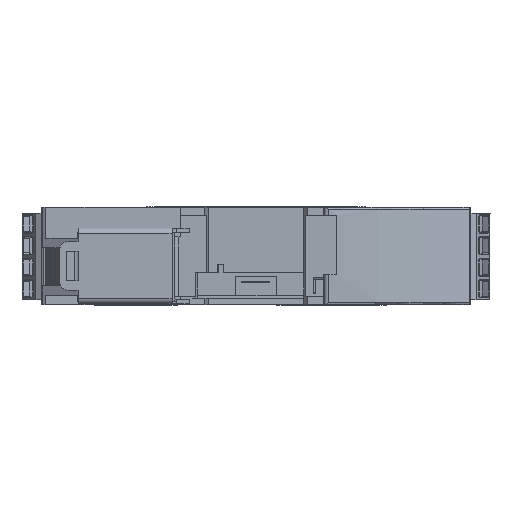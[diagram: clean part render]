
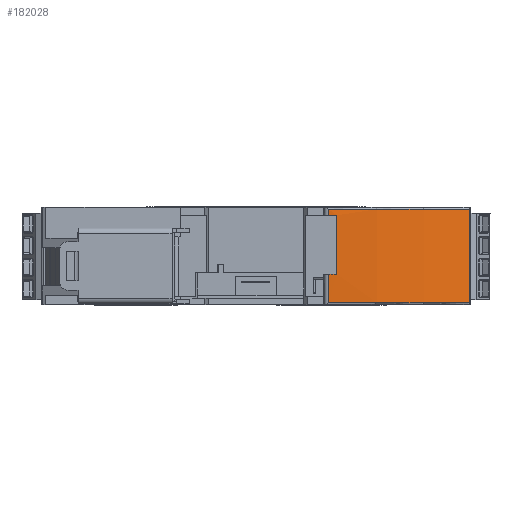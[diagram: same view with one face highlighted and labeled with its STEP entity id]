
A CAD part, front view. The second image highlights one B-rep face of the part: STEP entity #182028.
In plain terms, the highlighted cylindrical face has radius 80 mm (diameter 160 mm), a partial arc.
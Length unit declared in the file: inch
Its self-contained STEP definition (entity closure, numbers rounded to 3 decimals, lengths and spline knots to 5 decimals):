
#18715=FACE_OUTER_BOUND('',#28351,.T.);
#28351=EDGE_LOOP('',(#158817,#158818,#158819,#158820,#158821,#158822,#158823,
#158824));
#46879=LINE('',#291322,#67084);
#48050=LINE('',#294711,#68255);
#48051=LINE('',#294712,#68256);
#48052=LINE('',#294713,#68257);
#67084=VECTOR('',#232124,0.25984);
#68255=VECTOR('',#234729,0.53543);
#68256=VECTOR('',#234730,0.85039);
#68257=VECTOR('',#234731,0.05512);
#71900=CIRCLE('',#192883,3.14961);
#71902=CIRCLE('',#192889,3.14961);
#72058=CIRCLE('',#193592,3.14961);
#72059=CIRCLE('',#193595,3.14961);
#86602=VERTEX_POINT('',#291320);
#86603=VERTEX_POINT('',#291321);
#86611=VERTEX_POINT('',#291389);
#86616=VERTEX_POINT('',#291442);
#87589=VERTEX_POINT('',#294622);
#87590=VERTEX_POINT('',#294675);
#87592=VERTEX_POINT('',#294708);
#87593=VERTEX_POINT('',#294709);
#110286=EDGE_CURVE('',#86602,#86603,#46879,.T.);
#110296=EDGE_CURVE('',#86602,#86611,#71900,.T.);
#110305=EDGE_CURVE('',#86603,#86616,#71902,.T.);
#111743=EDGE_CURVE('',#87590,#87589,#72058,.T.);
#111746=EDGE_CURVE('',#87592,#87593,#72059,.T.);
#111747=EDGE_CURVE('',#87592,#86616,#48050,.T.);
#111748=EDGE_CURVE('',#86611,#87590,#48051,.T.);
#111749=EDGE_CURVE('',#87589,#87593,#48052,.T.);
#158817=ORIENTED_EDGE('',*,*,#111746,.F.);
#158818=ORIENTED_EDGE('',*,*,#111747,.T.);
#158819=ORIENTED_EDGE('',*,*,#110305,.F.);
#158820=ORIENTED_EDGE('',*,*,#110286,.F.);
#158821=ORIENTED_EDGE('',*,*,#110296,.T.);
#158822=ORIENTED_EDGE('',*,*,#111748,.T.);
#158823=ORIENTED_EDGE('',*,*,#111743,.T.);
#158824=ORIENTED_EDGE('',*,*,#111749,.T.);
#164586=CYLINDRICAL_SURFACE('',#193594,3.14961);
#182028=ADVANCED_FACE('',(#18715),#164586,.T.);
#192883=AXIS2_PLACEMENT_3D('',#291390,#232139,#232140);
#192889=AXIS2_PLACEMENT_3D('',#291445,#232155,#232156);
#193592=AXIS2_PLACEMENT_3D('',#294676,#234721,#234722);
#193594=AXIS2_PLACEMENT_3D('',#294707,#234725,#234726);
#193595=AXIS2_PLACEMENT_3D('',#294710,#234727,#234728);
#232124=DIRECTION('',(0.,0.,1.));
#232139=DIRECTION('center_axis',(0.,0.,
1.));
#232140=DIRECTION('ref_axis',(1.,0.,0.));
#232155=DIRECTION('center_axis',(0.,0.,
1.));
#232156=DIRECTION('ref_axis',(1.,0.,0.));
#234721=DIRECTION('center_axis',(0.,0.,
-1.));
#234722=DIRECTION('ref_axis',(-1.,0.,0.));
#234725=DIRECTION('center_axis',(0.,0.,
-1.));
#234726=DIRECTION('ref_axis',(-1.,0.,0.));
#234727=DIRECTION('center_axis',(0.,0.,
-1.));
#234728=DIRECTION('ref_axis',(-1.,0.,0.));
#234729=DIRECTION('',(0.,0.,-1.));
#234730=DIRECTION('',(0.,0.,1.));
#234731=DIRECTION('',(0.,0.,-1.));
#291320=CARTESIAN_POINT('',(0.65908,-2.28025,-0.12008));
#291321=CARTESIAN_POINT('',(0.65908,-2.28025,0.13976));
#291322=CARTESIAN_POINT('',(0.65908,-2.28025,-0.09055));
#291389=CARTESIAN_POINT('',(1.93792,-1.95138,-0.12008));
#291390=CARTESIAN_POINT('Origin',(0.5315,0.86677,-0.12008));
#291442=CARTESIAN_POINT('',(0.73622,-2.27617,0.13976));
#291445=CARTESIAN_POINT('Origin',(0.5315,0.86677,0.13976));
#294622=CARTESIAN_POINT('',(0.65908,-2.28025,0.73031));
#294675=CARTESIAN_POINT('',(1.93792,-1.95138,0.73031));
#294676=CARTESIAN_POINT('Origin',(0.5315,0.86677,0.73031));
#294707=CARTESIAN_POINT('Origin',(0.5315,0.86677,0.33661));
#294708=CARTESIAN_POINT('',(0.73622,-2.27617,0.6752));
#294709=CARTESIAN_POINT('',(0.65908,-2.28025,0.6752));
#294710=CARTESIAN_POINT('Origin',(0.5315,0.86677,0.6752));
#294711=CARTESIAN_POINT('',(0.73622,-2.27617,0.33661));
#294712=CARTESIAN_POINT('',(1.93792,-1.95138,0.30512));
#294713=CARTESIAN_POINT('',(0.65908,-2.28025,0.75));
